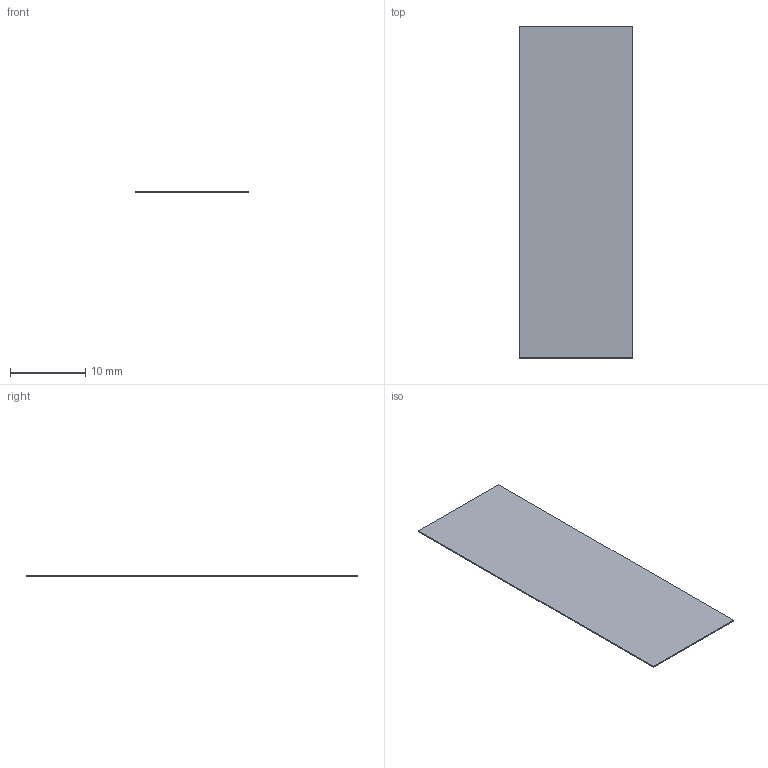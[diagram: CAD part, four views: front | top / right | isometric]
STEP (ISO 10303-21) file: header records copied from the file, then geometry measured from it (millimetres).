
FILE_DESCRIPTION(('Open CASCADE Model'),'2;1');
FILE_NAME('Open CASCADE Shape Model','2026-10-04T02:31:42',('Author'),( 'Open CASCADE'),'Open CASCADE STEP processor 8.0','Open CASCADE 8.0' ,'Unknown');
FILE_SCHEMA(('AUTOMOTIVE_DESIGN { 1 0 10303 214 1 1 1 1 }'));
Length unit declared in the file: millimetre
Products named in the file (1): Open CASCADE STEP translator 8.0 291
Bounding box: 15 x 44 x 0.15 mm (x, y, z)
Volume: 99 mm3; surface area: 1337.7 mm2
Topology: 1 solids, 1 shells, 6 faces, 12 edges, 8 vertices
Faces by surface type: plane 6
Entity records: 322 total; most frequent: CARTESIAN_POINT 51, DIRECTION 50, LINE 36, VECTOR 36, ORIENTED_EDGE 24, PCURVE 24, DEFINITIONAL_REPRESENTATION 24, EDGE_CURVE 12
